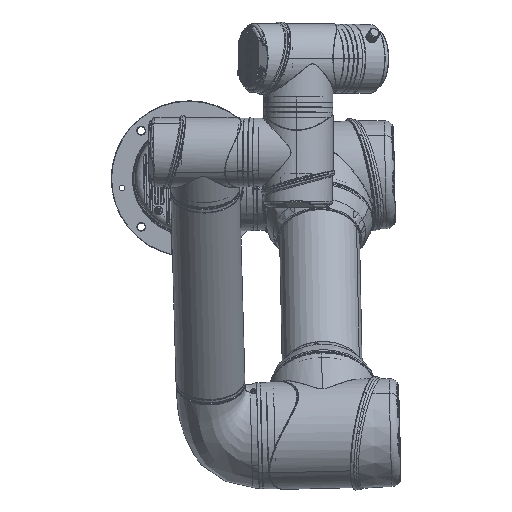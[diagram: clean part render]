
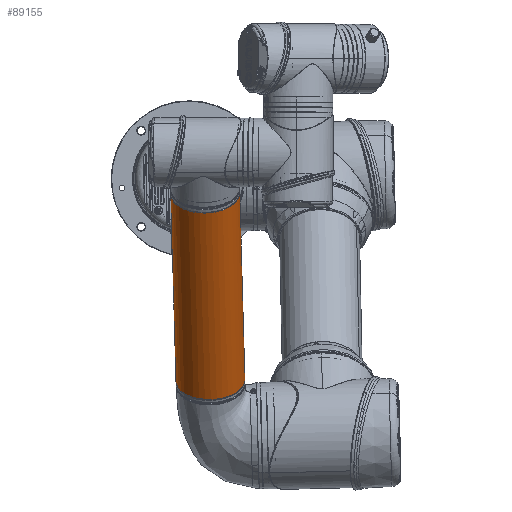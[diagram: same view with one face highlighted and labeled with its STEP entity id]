
A CAD part, top view. The second image highlights one B-rep face of the part: STEP entity #89155.
In plain terms, the highlighted cylindrical face has radius 37.5 mm (diameter 75 mm), a partial arc.
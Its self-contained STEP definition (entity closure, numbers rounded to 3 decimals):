
#489 = CARTESIAN_POINT ( 'NONE',  ( 0., -18.5, -581. ) ) ;
#2742 = VERTEX_POINT ( 'NONE', #19231 ) ;
#4196 = ORIENTED_EDGE ( 'NONE', *, *, #98319, .T. ) ;
#9142 = ORIENTED_EDGE ( 'NONE', *, *, #52509, .T. ) ;
#9995 = VERTEX_POINT ( 'NONE', #489 ) ;
#10711 = EDGE_CURVE ( 'NONE', #9995, #23115, #51353, .T. ) ;
#11159 = DIRECTION ( 'NONE',  ( 0., 0., -1. ) ) ;
#11831 = VERTEX_POINT ( 'NONE', #20939 ) ;
#14126 = ORIENTED_EDGE ( 'NONE', *, *, #10711, .F. ) ;
#14427 = EDGE_CURVE ( 'NONE', #11831, #2742, #77685, .T. ) ;
#15736 = FACE_OUTER_BOUND ( 'NONE', #65663, .T. ) ;
#16195 = CIRCLE ( 'NONE', #44832, 37.5 ) ;
#19101 = CARTESIAN_POINT ( 'NONE',  ( 0., 56.5, -568.5 ) ) ;
#19231 = CARTESIAN_POINT ( 'NONE',  ( 0., 56.5, -581. ) ) ;
#19620 = DIRECTION ( 'NONE',  ( 0., 0., -1. ) ) ;
#20939 = CARTESIAN_POINT ( 'NONE',  ( -37.5, 19., -581. ) ) ;
#21769 = CARTESIAN_POINT ( 'NONE',  ( 0., -18.5, -828. ) ) ;
#21916 = VERTEX_POINT ( 'NONE', #37228 ) ;
#23115 = VERTEX_POINT ( 'NONE', #21769 ) ;
#23726 = DIRECTION ( 'NONE',  ( 0., 0., -1. ) ) ;
#25231 = DIRECTION ( 'NONE',  ( 0., 0., 1. ) ) ;
#27332 = CIRCLE ( 'NONE', #88972, 37.5 ) ;
#29476 = AXIS2_PLACEMENT_3D ( 'NONE', #70460, #23726, #78331 ) ;
#30600 = VECTOR ( 'NONE', #11159, 1000. ) ;
#34150 = DIRECTION ( 'NONE',  ( 0., 0., -1. ) ) ;
#37228 = CARTESIAN_POINT ( 'NONE',  ( -37.5, 19., -828. ) ) ;
#42089 = CARTESIAN_POINT ( 'NONE',  ( 0., 19., -828. ) ) ;
#44832 = AXIS2_PLACEMENT_3D ( 'NONE', #71925, #25231, #79837 ) ;
#51353 = LINE ( 'NONE', #96846, #30600 ) ;
#51366 = DIRECTION ( 'NONE',  ( 0., 1., 0. ) ) ;
#52509 = EDGE_CURVE ( 'NONE', #21916, #23115, #16195, .T. ) ;
#55562 = EDGE_CURVE ( 'NONE', #81062, #21916, #27332, .T. ) ;
#59079 = ORIENTED_EDGE ( 'NONE', *, *, #55562, .T. ) ;
#64027 = ORIENTED_EDGE ( 'NONE', *, *, #14427, .T. ) ;
#65480 = DIRECTION ( 'NONE',  ( 0., 1., 0. ) ) ;
#65663 = EDGE_LOOP ( 'NONE', ( #14126, #4196, #64027, #71430, #59079, #9142 ) ) ;
#65779 = DIRECTION ( 'NONE',  ( 0., 0., -1. ) ) ;
#66319 = CARTESIAN_POINT ( 'NONE',  ( 0., 19., -581. ) ) ;
#70460 = CARTESIAN_POINT ( 'NONE',  ( 0., 19., -581. ) ) ;
#70998 = CARTESIAN_POINT ( 'NONE',  ( 0., 19., -568.5 ) ) ;
#71430 = ORIENTED_EDGE ( 'NONE', *, *, #81882, .T. ) ;
#71925 = CARTESIAN_POINT ( 'NONE',  ( 0., 19., -828. ) ) ;
#74174 = DIRECTION ( 'NONE',  ( 0., 1., 0. ) ) ;
#75771 = LINE ( 'NONE', #19101, #78212 ) ;
#77685 = CIRCLE ( 'NONE', #29476, 37.5 ) ;
#78212 = VECTOR ( 'NONE', #65779, 1000. ) ;
#78331 = DIRECTION ( 'NONE',  ( 0., 1., 0. ) ) ;
#79837 = DIRECTION ( 'NONE',  ( 0., 1., 0. ) ) ;
#81062 = VERTEX_POINT ( 'NONE', #91339 ) ;
#81882 = EDGE_CURVE ( 'NONE', #2742, #81062, #75771, .T. ) ;
#84355 = AXIS2_PLACEMENT_3D ( 'NONE', #70998, #34150, #65480 ) ;
#86545 = CYLINDRICAL_SURFACE ( 'NONE', #84355, 37.5 ) ;
#87437 = CIRCLE ( 'NONE', #92978, 37.5 ) ;
#88972 = AXIS2_PLACEMENT_3D ( 'NONE', #42089, #96735, #51366 ) ;
#89155 = ADVANCED_FACE ( 'NONE', ( #15736 ), #86545, .T. ) ;
#91339 = CARTESIAN_POINT ( 'NONE',  ( 0., 56.5, -828. ) ) ;
#92978 = AXIS2_PLACEMENT_3D ( 'NONE', #66319, #19620, #74174 ) ;
#96735 = DIRECTION ( 'NONE',  ( 0., 0., 1. ) ) ;
#96846 = CARTESIAN_POINT ( 'NONE',  ( 0., -18.5, -568.5 ) ) ;
#98319 = EDGE_CURVE ( 'NONE', #9995, #11831, #87437, .T. ) ;
